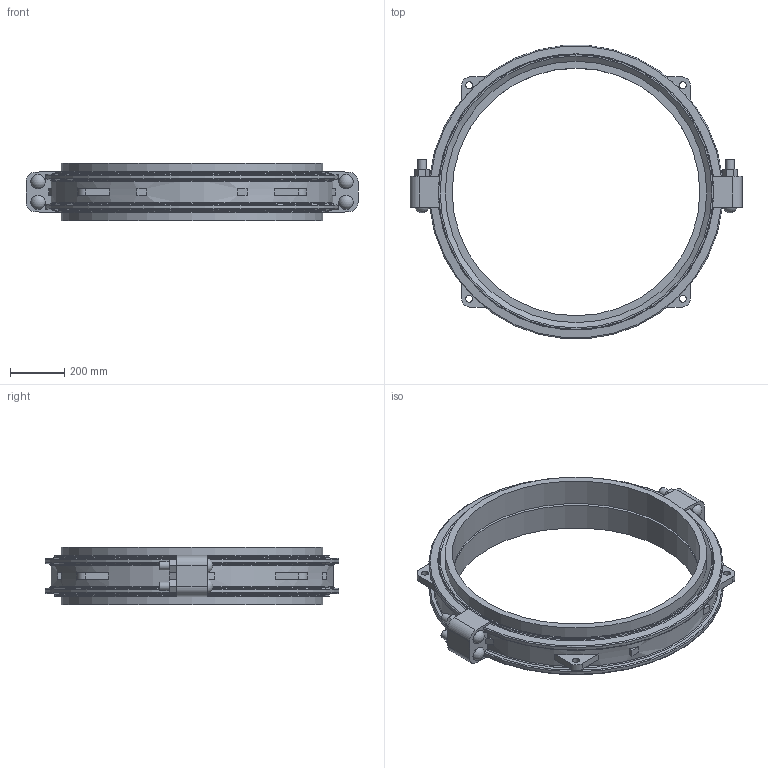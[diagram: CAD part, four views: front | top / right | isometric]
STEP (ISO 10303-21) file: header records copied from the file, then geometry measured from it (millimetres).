
FILE_DESCRIPTION(/* description */ ('VIC COUPLING FLEX STYLE W77 AGS VIC-RING ','CAx-IF Rec.Pracs.---Representation and Presentation of Product Manufacturing Information (PMI)---4.0---2014-10-13'),/* implementation_level */ '2;1');
FILE_NAME(/* name */ 'C:\Users\Vjadhav\AppData\Roaming\Autodesk\ApplicationPlugins\Victaulic.Temp\A52\Victaulic_Vic-Ring_Coupling Flexible_Style W77 (AGR)_38 (950).stp',/* time_stamp */ '2021-12-20T11:05:52+06:00',/* author */ ('Vjadhav'),/* organization */ ('Victaulic'),/* preprocessor_version */ 'ST-DEVELOPER v17.2',/* originating_system */ 'Autodesk Inventor 2019',/* authorisation */ '');
FILE_SCHEMA (('AP242_MANAGED_MODEL_BASED_3D_ENGINEERING_MIM_LF { 1 0 10303 442 1 1 4 }'));
Length unit declared in the file: inch
Products named in the file (3): W77 VR-38.0; W77 VR-38.0_1; W77 VR-38.0_2
Assembly tree (3 placements, depth 2):
  W77 VR-38.0
    W77 VR-38.0_1
    W77 VR-38.0_2  x2
Bounding box: 1225.55 x 1081.82 x 211.84 mm (x, y, z)
Volume: 39462835.2 mm3; surface area: 3191520.2 mm2
Topology: 3 solids, 7 shells, 187 faces, 491 edges, 340 vertices
Faces by surface type: plane 110, cylinder 47, torus 16, cone 10, sphere 4
Full cylindrical faces by diameter (mm): 25.4 x4, 31.75 x8, 53.162 x4, 914.4 x2, 946.15 x1, 965.2 x4, 1014.984 x2
Entity records: 6491 total; most frequent: CARTESIAN_POINT 1514, DIRECTION 987, ORIENTED_EDGE 962, EDGE_CURVE 481, AXIS2_PLACEMENT_3D 365, VERTEX_POINT 332, LINE 257, VECTOR 257
